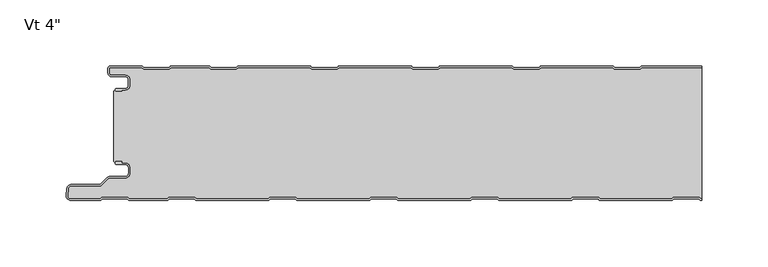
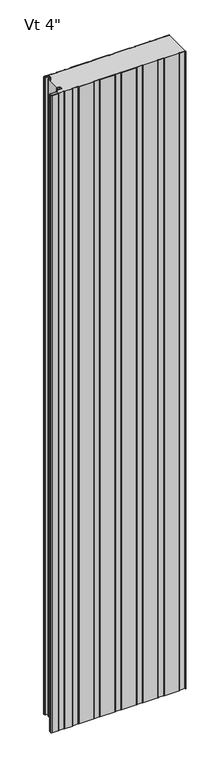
"""IFC4 building model written with IfcOpenShell, lengths in millimetres: plate geometry."""

from ifc_helpers import new_model, si_unit, point, frame, frame_2d, origin, origin_with_axes, place, context, project, spatial, polyline, circle_curve, trimmed, segment, composite_curve, outline, extrude, source, transform, mapped, element, save
from ifc_brep_helpers import plane_surface, cylinder_surface, revolved_surface, advanced_brep


def plate_c56739d3(model_context):
    return source(origin(), model_context, "Body", "SolidModel", [
        advanced_brep(
        [(-219.9686911, -17.0015243, 2400.0), (-220.9686883, -18.0015275, 2400.0), (-219.9686911, -19.0015188, 2400.0), (-215.9684874, -19.0015188, 2400.0), (-215.9684874, -18.0015243, 2400.0), (-213.2762776, -18.0015243, 2400.0), (-209.9762819, -14.7015286, 2400.0), (-209.9762819, -10.3015374, 2400.0), (-213.2762774, -7.0015419, 2400.0), (-223.6962563, -7.0015419, 2400.0), (-225.4662505, -5.2315477, 2400.0), (-225.4662505, -1.0, 2400.0), (-200.9659739, -1.0, 2400.0), (-199.5803313, -2.2002391, 2400.0), (-180.205165, -2.2002391, 2400.0), (-178.819532, -1.0000084, 2400.0), (-150.1661166, -1.0000084, 2400.0), (-148.7804837, -2.2002391, 2400.0), (-129.4053174, -2.2002391, 2400.0), (-128.0196844, -1.0000084, 2400.0), (-73.966269, -1.0000084, 2400.0), (-72.5806361, -2.2002391, 2400.0), (-53.2054698, -2.2002391, 2400.0), (-51.8198368, -1.0000084, 2400.0), (2.2335786, -1.0000084, 2400.0), (3.6192115, -2.2002391, 2400.0), (22.9943778, -2.2002391, 2400.0), (24.3800108, -1.0000084, 2400.0), (78.4334262, -1.0000084, 2400.0), (79.8190591, -2.2002391, 2400.0), (99.1942254, -2.2002391, 2400.0), (100.5798584, -1.0000084, 2400.0), (154.6332738, -1.0000084, 2400.0), (156.0189067, -2.2002391, 2400.0), (175.394073, -2.2002391, 2400.0), (176.779706, -1.0000084, 2400.0), (221.9999998, -1.0000084, 2400.0), (221.9999998, -8.4e-06, 2400.0), (176.9288571, -8.4e-06, 2400.0), (176.0122402, -0.3417969, 2400.0), (175.0211926, -1.2002391, 2400.0), (156.3917872, -1.2002391, 2400.0), (155.4007395, -0.3417969, 2400.0), (154.4841226, -8.4e-06, 2400.0), (100.7290095, -8.4e-06, 2400.0), (99.8123926, -0.3417969, 2400.0), (98.821345, -1.2002391, 2400.0), (80.1919396, -1.2002391, 2400.0), (79.2008919, -0.3417969, 2400.0), (78.284275, -8.4e-06, 2400.0), (24.5291619, -8.4e-06, 2400.0), (23.612545, -0.3417969, 2400.0), (22.6214974, -1.2002391, 2400.0), (3.992092, -1.2002391, 2400.0), (3.0010443, -0.3417969, 2400.0), (2.0844274, -8.4e-06, 2400.0), (-51.6706857, -8.4e-06, 2400.0), (-52.5873026, -0.3417969, 2400.0), (-53.5783502, -1.2002391, 2400.0), (-72.2077556, -1.2002391, 2400.0), (-73.1988033, -0.3417969, 2400.0), (-74.1154202, -8.4e-06, 2400.0), (-127.8705333, -8.4e-06, 2400.0), (-128.7871502, -0.3417969, 2400.0), (-129.7781978, -1.2002391, 2400.0), (-148.4076032, -1.2002391, 2400.0), (-149.3986509, -0.3417969, 2400.0), (-150.3152678, -8.4e-06, 2400.0), (-178.6703809, -8.4e-06, 2400.0), (-179.5869978, -0.3417969, 2400.0), (-180.5780454, -1.2002391, 2400.0), (-199.2074508, -1.2002391, 2400.0), (-200.1984985, -0.3417969, 2400.0), (-201.1152068, -8.4e-06, 2400.0), (-225.0662544, 0.0, 2400.0), (-226.4662505, -1.3999962, 2400.0), (-226.4662505, -5.2315477, 2400.0), (-223.6962563, -8.0015419, 2400.0), (-213.2762774, -8.0015419, 2400.0), (-210.9762819, -10.3015374, 2400.0), (-210.9762819, -14.7015286, 2400.0), (-213.2762776, -17.0015243, 2400.0), (-219.9686911, -17.0015243, 0.0), (-213.2762776, -17.0015243, 0.0), (-210.9762819, -14.7015286, 0.0), (-210.9762819, -10.3015374, 0.0), (-213.2762774, -8.0015419, 0.0), (-223.6962563, -8.0015419, 0.0), (-226.4662505, -5.2315477, 0.0), (-226.4662505, -1.3999962, 0.0), (-225.0662544, 0.0, 0.0), (-201.1151154, 0.0, 0.0), (-200.1984985, -0.3417969, 0.0), (-199.2074508, -1.2002391, 0.0), (-180.5780454, -1.2002391, 0.0), (-179.5869978, -0.3417969, 0.0), (-178.6703809, -8.4e-06, 0.0), (-150.3152678, -8.4e-06, 0.0), (-149.3986509, -0.3417969, 0.0), (-148.4076032, -1.2002391, 0.0), (-129.7781978, -1.2002391, 0.0), (-128.7871502, -0.3417969, 0.0), (-127.8705333, -8.4e-06, 0.0), (-74.1154202, -8.4e-06, 0.0), (-73.1988033, -0.3417969, 0.0), (-72.2077556, -1.2002391, 0.0), (-53.5783502, -1.2002391, 0.0), (-52.5873026, -0.3417969, 0.0), (-51.6706857, -8.4e-06, 0.0), (2.0844274, -8.4e-06, 0.0), (3.0010443, -0.3417969, 0.0), (3.992092, -1.2002391, 0.0), (22.6214974, -1.2002391, 0.0), (23.612545, -0.3417969, 0.0), (24.5291619, -8.4e-06, 0.0), (78.284275, -8.4e-06, 0.0), (79.2008919, -0.3417969, 0.0), (80.1919396, -1.2002391, 0.0), (98.821345, -1.2002391, 0.0), (99.8123926, -0.3417969, 0.0), (100.7290095, -8.4e-06, 0.0), (154.4841226, -8.4e-06, 0.0), (155.4007395, -0.3417969, 0.0), (156.3917872, -1.2002391, 0.0), (175.0211926, -1.2002391, 0.0), (176.0122402, -0.3417969, 0.0), (176.9288571, -8.4e-06, 0.0), (221.9999998, -8.4e-06, 0.0), (221.9999998, -1.0000084, 0.0), (176.779706, -1.0000084, 0.0), (175.394073, -2.2002391, 0.0), (156.0189067, -2.2002391, 0.0), (154.6332738, -1.0000084, 0.0), (100.5798584, -1.0000084, 0.0), (99.1942254, -2.2002391, 0.0), (79.8190591, -2.2002391, 0.0), (78.4334262, -1.0000084, 0.0), (24.3800108, -1.0000084, 0.0), (22.9943778, -2.2002391, 0.0), (3.6192115, -2.2002391, 0.0), (2.2335786, -1.0000084, 0.0), (-51.8198368, -1.0000084, 0.0), (-53.2054698, -2.2002391, 0.0), (-72.5806361, -2.2002391, 0.0), (-73.966269, -1.0000084, 0.0), (-128.0196844, -1.0000084, 0.0), (-129.4053174, -2.2002391, 0.0), (-148.7804837, -2.2002391, 0.0), (-150.1661166, -1.0000084, 0.0), (-178.819532, -1.0000084, 0.0), (-180.205165, -2.2002391, 0.0), (-199.5803313, -2.2002391, 0.0), (-200.9659739, -1.0, 0.0), (-225.4662505, -1.0, 0.0), (-225.4662505, -5.2315477, 0.0), (-223.6962563, -7.0015419, 0.0), (-213.2762774, -7.0015419, 0.0), (-209.9762819, -10.3015374, 0.0), (-209.9762819, -14.7015286, 0.0), (-213.2762776, -18.0015243, 0.0), (-215.9684874, -18.0015243, 0.0), (-215.9684874, -19.0015188, 0.0), (-219.9686911, -19.0015188, 0.0), (-220.9686883, -18.0015275, 0.0)],
        [
            (0, 1, circle_curve(frame((-219.9686911, -18.0015215, 2400.0), z_axis=(0.0, 0.0, 1.0), x_axis=(1.0, 0.0, 0.0)), 0.9999973)),
            (1, 2, circle_curve(frame((-219.9686911, -18.0015216, 2400.0), z_axis=(0.0, 0.0, 1.0), x_axis=(1.0, 0.0, 0.0)), 0.9999972)),
            (2, 3),
            (3, 4),
            (4, 5),
            (5, 6, circle_curve(frame((-213.2762776, -14.7015286, 2400.0), z_axis=(0.0, 0.0, 1.0), x_axis=(1.0, 0.0, 0.0)), 3.2999957)),
            (6, 7),
            (7, 8, circle_curve(frame((-213.2762774, -10.3015374, 2400.0), z_axis=(0.0, 0.0, 1.0), x_axis=(1.0, 0.0, 0.0)), 3.2999955)),
            (8, 9),
            (9, 10, circle_curve(frame((-223.6962563, -5.2315477, 2400.0), z_axis=(0.0, 0.0, -1.0), x_axis=(1.0, 0.0, 0.0)), 1.7699942)),
            (10, 11),
            (11, 12),
            (12, 13),
            (13, 14),
            (14, 15),
            (15, 16),
            (16, 17),
            (17, 18),
            (18, 19),
            (19, 20),
            (20, 21),
            (21, 22),
            (22, 23),
            (23, 24),
            (24, 25),
            (25, 26),
            (26, 27),
            (27, 28),
            (28, 29),
            (29, 30),
            (30, 31),
            (31, 32),
            (32, 33),
            (33, 34),
            (34, 35),
            (35, 36),
            (36, 37),
            (37, 38),
            (38, 39, circle_curve(frame((176.9288571, -1.4000056, 2400.0), z_axis=(0.0, 0.0, 1.0), x_axis=(1.0, 0.0, 0.0)), 1.3999972)),
            (39, 40),
            (40, 41),
            (41, 42),
            (42, 43, circle_curve(frame((154.4841226, -1.4000056, 2400.0), z_axis=(0.0, 0.0, 1.0), x_axis=(1.0, 0.0, 0.0)), 1.3999972)),
            (43, 44),
            (44, 45, circle_curve(frame((100.7290095, -1.4000056, 2400.0), z_axis=(0.0, 0.0, 1.0), x_axis=(1.0, 0.0, 0.0)), 1.3999972)),
            (45, 46),
            (46, 47),
            (47, 48),
            (48, 49, circle_curve(frame((78.284275, -1.4000056, 2400.0), z_axis=(0.0, 0.0, 1.0), x_axis=(1.0, 0.0, 0.0)), 1.3999972)),
            (49, 50),
            (50, 51, circle_curve(frame((24.5291619, -1.4000056, 2400.0), z_axis=(0.0, 0.0, 1.0), x_axis=(1.0, 0.0, 0.0)), 1.3999972)),
            (51, 52),
            (52, 53),
            (53, 54),
            (54, 55, circle_curve(frame((2.0844274, -1.4000056, 2400.0), z_axis=(0.0, 0.0, 1.0), x_axis=(1.0, 0.0, 0.0)), 1.3999972)),
            (55, 56),
            (56, 57, circle_curve(frame((-51.6706857, -1.4000056, 2400.0), z_axis=(0.0, 0.0, 1.0), x_axis=(1.0, 0.0, 0.0)), 1.3999972)),
            (57, 58),
            (58, 59),
            (59, 60),
            (60, 61, circle_curve(frame((-74.1154202, -1.4000056, 2400.0), z_axis=(0.0, 0.0, 1.0), x_axis=(1.0, 0.0, 0.0)), 1.3999972)),
            (61, 62),
            (62, 63, circle_curve(frame((-127.8705333, -1.4000056, 2400.0), z_axis=(0.0, 0.0, 1.0), x_axis=(1.0, 0.0, 0.0)), 1.3999972)),
            (63, 64),
            (64, 65),
            (65, 66),
            (66, 67, circle_curve(frame((-150.3152678, -1.4000056, 2400.0), z_axis=(0.0, 0.0, 1.0), x_axis=(1.0, 0.0, 0.0)), 1.3999972)),
            (67, 68),
            (68, 69, circle_curve(frame((-178.6703809, -1.4000056, 2400.0), z_axis=(0.0, 0.0, 1.0), x_axis=(1.0, 0.0, 0.0)), 1.3999972)),
            (69, 70),
            (70, 71),
            (71, 72),
            (72, 73, circle_curve(frame((-201.1151154, -1.4000056, 2400.0), z_axis=(0.0, 0.0, 1.0), x_axis=(1.0, 0.0, 0.0)), 1.3999972)),
            (73, 74),
            (74, 75, circle_curve(frame((-225.0662544, -1.3999962, 2400.0), z_axis=(0.0, 0.0, 1.0), x_axis=(1.0, 0.0, 0.0)), 1.3999962)),
            (75, 76),
            (76, 77, circle_curve(frame((-223.6962563, -5.2315477, 2400.0), z_axis=(0.0, 0.0, 1.0), x_axis=(1.0, 0.0, 0.0)), 2.7699942)),
            (77, 78),
            (78, 79, circle_curve(frame((-213.2762774, -10.3015374, 2400.0), z_axis=(0.0, 0.0, -1.0), x_axis=(1.0, 0.0, 0.0)), 2.2999955)),
            (79, 80),
            (80, 81, circle_curve(frame((-213.2762776, -14.7015286, 2400.0), z_axis=(0.0, 0.0, -1.0), x_axis=(1.0, 0.0, 0.0)), 2.2999957)),
            (81, 0),
            (82, 83),
            (83, 84, circle_curve(frame((-213.2762776, -14.7015286, 0.0), z_axis=(0.0, 0.0, 1.0), x_axis=(1.0, 0.0, 0.0)), 2.2999957)),
            (84, 85),
            (85, 86, circle_curve(frame((-213.2762774, -10.3015374, 0.0), z_axis=(0.0, 0.0, 1.0), x_axis=(1.0, 0.0, 0.0)), 2.2999955)),
            (86, 87),
            (87, 88, circle_curve(frame((-223.6962563, -5.2315477, 0.0), z_axis=(0.0, 0.0, -1.0), x_axis=(1.0, 0.0, 0.0)), 2.7699942)),
            (88, 89),
            (89, 90, circle_curve(frame((-225.0662544, -1.3999962, 0.0), z_axis=(0.0, 0.0, -1.0), x_axis=(1.0, 0.0, 0.0)), 1.3999962)),
            (90, 91),
            (91, 92, circle_curve(frame((-201.1151154, -1.4000056, 0.0), z_axis=(0.0, 0.0, -1.0), x_axis=(1.0, 0.0, 0.0)), 1.3999972)),
            (92, 93),
            (93, 94),
            (94, 95),
            (95, 96, circle_curve(frame((-178.6703809, -1.4000056, 0.0), z_axis=(0.0, 0.0, -1.0), x_axis=(1.0, 0.0, 0.0)), 1.3999972)),
            (96, 97),
            (97, 98, circle_curve(frame((-150.3152678, -1.4000056, 0.0), z_axis=(0.0, 0.0, -1.0), x_axis=(1.0, 0.0, 0.0)), 1.3999972)),
            (98, 99),
            (99, 100),
            (100, 101),
            (101, 102, circle_curve(frame((-127.8705333, -1.4000056, 0.0), z_axis=(0.0, 0.0, -1.0), x_axis=(1.0, 0.0, 0.0)), 1.3999972)),
            (102, 103),
            (103, 104, circle_curve(frame((-74.1154202, -1.4000056, 0.0), z_axis=(0.0, 0.0, -1.0), x_axis=(1.0, 0.0, 0.0)), 1.3999972)),
            (104, 105),
            (105, 106),
            (106, 107),
            (107, 108, circle_curve(frame((-51.6706857, -1.4000056, 0.0), z_axis=(0.0, 0.0, -1.0), x_axis=(1.0, 0.0, 0.0)), 1.3999972)),
            (108, 109),
            (109, 110, circle_curve(frame((2.0844274, -1.4000056, 0.0), z_axis=(0.0, 0.0, -1.0), x_axis=(1.0, 0.0, 0.0)), 1.3999972)),
            (110, 111),
            (111, 112),
            (112, 113),
            (113, 114, circle_curve(frame((24.5291619, -1.4000056, 0.0), z_axis=(0.0, 0.0, -1.0), x_axis=(1.0, 0.0, 0.0)), 1.3999972)),
            (114, 115),
            (115, 116, circle_curve(frame((78.284275, -1.4000056, 0.0), z_axis=(0.0, 0.0, -1.0), x_axis=(1.0, 0.0, 0.0)), 1.3999972)),
            (116, 117),
            (117, 118),
            (118, 119),
            (119, 120, circle_curve(frame((100.7290095, -1.4000056, 0.0), z_axis=(0.0, 0.0, -1.0), x_axis=(1.0, 0.0, 0.0)), 1.3999972)),
            (120, 121),
            (121, 122, circle_curve(frame((154.4841226, -1.4000056, 0.0), z_axis=(0.0, 0.0, -1.0), x_axis=(1.0, 0.0, 0.0)), 1.3999972)),
            (122, 123),
            (123, 124),
            (124, 125),
            (125, 126, circle_curve(frame((176.9288571, -1.4000056, 0.0), z_axis=(0.0, 0.0, -1.0), x_axis=(1.0, 0.0, 0.0)), 1.3999972)),
            (126, 127),
            (127, 128),
            (128, 129),
            (129, 130),
            (130, 131),
            (131, 132),
            (132, 133),
            (133, 134),
            (134, 135),
            (135, 136),
            (136, 137),
            (137, 138),
            (138, 139),
            (139, 140),
            (140, 141),
            (141, 142),
            (142, 143),
            (143, 144),
            (144, 145),
            (145, 146),
            (146, 147),
            (147, 148),
            (148, 149),
            (149, 150),
            (150, 151),
            (151, 152),
            (152, 153),
            (153, 154),
            (154, 155, circle_curve(frame((-223.6962563, -5.2315477, 0.0), z_axis=(0.0, 0.0, 1.0), x_axis=(1.0, 0.0, 0.0)), 1.7699942)),
            (155, 156),
            (156, 157, circle_curve(frame((-213.2762774, -10.3015374, 0.0), z_axis=(0.0, 0.0, -1.0), x_axis=(1.0, 0.0, 0.0)), 3.2999955)),
            (157, 158),
            (158, 159, circle_curve(frame((-213.2762776, -14.7015286, 0.0), z_axis=(0.0, 0.0, -1.0), x_axis=(1.0, 0.0, 0.0)), 3.2999957)),
            (159, 160),
            (160, 161),
            (161, 162),
            (162, 163, circle_curve(frame((-219.9686911, -18.0015216, 0.0), z_axis=(0.0, 0.0, -1.0), x_axis=(1.0, 0.0, 0.0)), 0.9999972)),
            (163, 82, circle_curve(frame((-219.9686911, -18.0015215, 0.0), z_axis=(0.0, 0.0, -1.0), x_axis=(1.0, 0.0, 0.0)), 0.9999973)),
            (36, 128),
            (127, 37),
            (81, 83),
            (82, 0),
            (80, 84),
            (79, 85),
            (78, 86),
            (77, 87),
            (76, 88),
            (75, 89),
            (74, 90),
            (73, 91),
            (72, 92),
            (71, 93),
            (70, 94),
            (69, 95),
            (68, 96),
            (67, 97),
            (66, 98),
            (65, 99),
            (64, 100),
            (63, 101),
            (62, 102),
            (61, 103),
            (60, 104),
            (59, 105),
            (58, 106),
            (57, 107),
            (56, 108),
            (55, 109),
            (54, 110),
            (53, 111),
            (52, 112),
            (51, 113),
            (50, 114),
            (49, 115),
            (48, 116),
            (47, 117),
            (46, 118),
            (45, 119),
            (44, 120),
            (43, 121),
            (42, 122),
            (41, 123),
            (40, 124),
            (39, 125),
            (38, 126),
            (35, 129),
            (34, 130),
            (33, 131),
            (32, 132),
            (31, 133),
            (30, 134),
            (29, 135),
            (28, 136),
            (27, 137),
            (26, 138),
            (25, 139),
            (24, 140),
            (23, 141),
            (22, 142),
            (21, 143),
            (20, 144),
            (19, 145),
            (18, 146),
            (17, 147),
            (16, 148),
            (15, 149),
            (14, 150),
            (13, 151),
            (12, 152),
            (11, 153),
            (10, 154),
            (9, 155),
            (8, 156),
            (7, 157),
            (6, 158),
            (5, 159),
            (4, 160),
            (3, 161),
            (2, 162),
            (1, 163),
        ],
        [
            plane_surface(frame((286.0000002, -8.4e-06, 2400.0), z_axis=(0.0, 0.0, 1.0), x_axis=(0.0, 1.0, 0.0))),
            plane_surface(frame((286.0000002, -8.4e-06, 0.0), z_axis=(0.0, 0.0, -1.0), x_axis=(0.0, 1.0, 0.0))),
            plane_surface(frame((221.9999998, -111.6000084, 2400.0), z_axis=(1.0, 0.0, 0.0), x_axis=(0.0, 0.0, -1.0))),
            plane_surface(frame((-219.9686911, -17.0015243, 2400.0), z_axis=(0.0, 1.0, 0.0), x_axis=(0.0, 0.0, -1.0))),
            revolved_surface(polyline([(-210.97628189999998, -14.7015286, 0.0), (-210.97628189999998, -14.7015286, 2400.0)]), (-213.2762776, -14.7015286, 2400.0), (0.0, 0.0, -1.0)),
            plane_surface(frame((-210.9762819, -14.7015286, 2400.0), z_axis=(-1.0, 0.0, 0.0), x_axis=(0.0, 0.0, -1.0))),
            revolved_surface(polyline([(-210.9762819, -10.3015374, 0.0), (-210.9762819, -10.3015374, 2400.0)]), (-213.2762774, -10.3015374, 2400.0), (0.0, 0.0, -1.0)),
            plane_surface(frame((-213.2762774, -8.0015419, 2400.0), z_axis=(0.0, -1.0, 0.0), x_axis=(0.0, 0.0, -1.0))),
            cylinder_surface(frame((-223.6962563, -5.2315477, 2400.0), z_axis=(0.0, 0.0, 1.0), x_axis=(1.0, 0.0, 0.0)), 2.7699942),
            plane_surface(frame((-226.4662505, -5.2315477, 2400.0), z_axis=(-1.0, 0.0, 0.0), x_axis=(0.0, 0.0, -1.0))),
            cylinder_surface(frame((-225.0662544, -1.3999962, 2400.0), z_axis=(0.0, 0.0, 1.0), x_axis=(1.0, 0.0, 0.0)), 1.3999962),
            plane_surface(frame((-225.0662544, 0.0, 2400.0), z_axis=(0.0, 1.0, 0.0), x_axis=(0.0, 0.0, -1.0))),
            cylinder_surface(frame((-201.1151154, -1.4000056, 2400.0), z_axis=(0.0, 0.0, 1.0), x_axis=(1.0, 0.0, 0.0)), 1.3999972),
            plane_surface(frame((-200.1984985, -0.3417969, 2400.0), z_axis=(0.6547276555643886, 0.755864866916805, 0.0), x_axis=(0.0, 0.0, -1.0))),
            plane_surface(frame((-189.8927481, -1.2002391, 2400.0), z_axis=(0.0, 1.0, 0.0), x_axis=(0.0, 0.0, -1.0))),
            plane_surface(frame((-180.5780454, -1.2002391, 2400.0), z_axis=(-0.6547276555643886, 0.755864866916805, 0.0), x_axis=(0.0, 0.0, -1.0))),
            cylinder_surface(frame((-178.6703809, -1.4000056, 2400.0), z_axis=(0.0, 0.0, 1.0), x_axis=(1.0, 0.0, 0.0)), 1.3999972),
            plane_surface(frame((-178.6703809, -8.4e-06, 2400.0), z_axis=(0.0, 1.0, 0.0), x_axis=(0.0, 0.0, -1.0))),
            cylinder_surface(frame((-150.3152678, -1.4000056, 2400.0), z_axis=(0.0, 0.0, 1.0), x_axis=(1.0, 0.0, 0.0)), 1.3999972),
            plane_surface(frame((-149.3986509, -0.3417969, 2400.0), z_axis=(0.6547276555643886, 0.755864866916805, 0.0), x_axis=(0.0, 0.0, -1.0))),
            plane_surface(frame((-139.0929005, -1.2002391, 2400.0), z_axis=(0.0, 1.0, 0.0), x_axis=(0.0, 0.0, -1.0))),
            plane_surface(frame((-129.7781978, -1.2002391, 2400.0), z_axis=(-0.6547276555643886, 0.755864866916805, 0.0), x_axis=(0.0, 0.0, -1.0))),
            cylinder_surface(frame((-127.8705333, -1.4000056, 2400.0), z_axis=(0.0, 0.0, 1.0), x_axis=(1.0, 0.0, 0.0)), 1.3999972),
            plane_surface(frame((-127.8705333, -8.4e-06, 2400.0), z_axis=(0.0, 1.0, 0.0), x_axis=(0.0, 0.0, -1.0))),
            cylinder_surface(frame((-74.1154202, -1.4000056, 2400.0), z_axis=(0.0, 0.0, 1.0), x_axis=(1.0, 0.0, 0.0)), 1.3999972),
            plane_surface(frame((-73.1988033, -0.3417969, 2400.0), z_axis=(0.6547276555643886, 0.755864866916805, 0.0), x_axis=(0.0, 0.0, -1.0))),
            plane_surface(frame((-62.8930529, -1.2002391, 2400.0), z_axis=(0.0, 1.0, 0.0), x_axis=(0.0, 0.0, -1.0))),
            plane_surface(frame((-53.5783502, -1.2002391, 2400.0), z_axis=(-0.6547276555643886, 0.755864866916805, 0.0), x_axis=(0.0, 0.0, -1.0))),
            cylinder_surface(frame((-51.6706857, -1.4000056, 2400.0), z_axis=(0.0, 0.0, 1.0), x_axis=(1.0, 0.0, 0.0)), 1.3999972),
            plane_surface(frame((-51.6706857, -8.4e-06, 2400.0), z_axis=(0.0, 1.0, 0.0), x_axis=(0.0, 0.0, -1.0))),
            cylinder_surface(frame((2.0844274, -1.4000056, 2400.0), z_axis=(0.0, 0.0, 1.0), x_axis=(1.0, 0.0, 0.0)), 1.3999972),
            plane_surface(frame((3.0010443, -0.3417969, 2400.0), z_axis=(0.6547276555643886, 0.755864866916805, 0.0), x_axis=(0.0, 0.0, -1.0))),
            plane_surface(frame((13.3067947, -1.2002391, 2400.0), z_axis=(0.0, 1.0, 0.0), x_axis=(0.0, 0.0, -1.0))),
            plane_surface(frame((22.6214974, -1.2002391, 2400.0), z_axis=(-0.6547276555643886, 0.755864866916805, 0.0), x_axis=(0.0, 0.0, -1.0))),
            cylinder_surface(frame((24.5291619, -1.4000056, 2400.0), z_axis=(0.0, 0.0, 1.0), x_axis=(1.0, 0.0, 0.0)), 1.3999972),
            plane_surface(frame((24.5291619, -8.4e-06, 2400.0), z_axis=(0.0, 1.0, 0.0), x_axis=(0.0, 0.0, -1.0))),
            cylinder_surface(frame((78.284275, -1.4000056, 2400.0), z_axis=(0.0, 0.0, 1.0), x_axis=(1.0, 0.0, 0.0)), 1.3999972),
            plane_surface(frame((79.2008919, -0.3417969, 2400.0), z_axis=(0.6547276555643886, 0.755864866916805, 0.0), x_axis=(0.0, 0.0, -1.0))),
            plane_surface(frame((89.5066423, -1.2002391, 2400.0), z_axis=(0.0, 1.0, 0.0), x_axis=(0.0, 0.0, -1.0))),
            plane_surface(frame((98.821345, -1.2002391, 2400.0), z_axis=(-0.6547276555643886, 0.755864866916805, 0.0), x_axis=(0.0, 0.0, -1.0))),
            cylinder_surface(frame((100.7290095, -1.4000056, 2400.0), z_axis=(0.0, 0.0, 1.0), x_axis=(1.0, 0.0, 0.0)), 1.3999972),
            plane_surface(frame((100.7290095, -8.4e-06, 2400.0), z_axis=(0.0, 1.0, 0.0), x_axis=(0.0, 0.0, -1.0))),
            cylinder_surface(frame((154.4841226, -1.4000056, 2400.0), z_axis=(0.0, 0.0, 1.0), x_axis=(1.0, 0.0, 0.0)), 1.3999972),
            plane_surface(frame((155.4007395, -0.3417969, 2400.0), z_axis=(0.6547276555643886, 0.755864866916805, 0.0), x_axis=(0.0, 0.0, -1.0))),
            plane_surface(frame((165.7064899, -1.2002391, 2400.0), z_axis=(0.0, 1.0, 0.0), x_axis=(0.0, 0.0, -1.0))),
            plane_surface(frame((175.0211926, -1.2002391, 2400.0), z_axis=(-0.6547276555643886, 0.755864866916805, 0.0), x_axis=(0.0, 0.0, -1.0))),
            cylinder_surface(frame((176.9288571, -1.4000056, 2400.0), z_axis=(0.0, 0.0, 1.0), x_axis=(1.0, 0.0, 0.0)), 1.3999972),
            plane_surface(frame((176.9288571, -8.4e-06, 2400.0), z_axis=(0.0, 1.0, 0.0), x_axis=(0.0, 0.0, -1.0))),
            plane_surface(frame((230.8331214, -1.0000084, 2400.0), z_axis=(0.0, -1.0, 0.0), x_axis=(0.0, 0.0, -1.0))),
            plane_surface(frame((176.779706, -1.0000084, 2400.0), z_axis=(0.6547276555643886, -0.755864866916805, 0.0), x_axis=(0.0, 0.0, -1.0))),
            plane_surface(frame((175.394073, -2.2002391, 2400.0), z_axis=(0.0, -1.0, 0.0), x_axis=(0.0, 0.0, -1.0))),
            plane_surface(frame((156.0189067, -2.2002391, 2400.0), z_axis=(-0.6547276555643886, -0.755864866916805, 0.0), x_axis=(0.0, 0.0, -1.0))),
            plane_surface(frame((154.6332738, -1.0000084, 2400.0), z_axis=(0.0, -1.0, 0.0), x_axis=(0.0, 0.0, -1.0))),
            plane_surface(frame((100.5798584, -1.0000084, 2400.0), z_axis=(0.6547276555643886, -0.755864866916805, 0.0), x_axis=(0.0, 0.0, -1.0))),
            plane_surface(frame((99.1942254, -2.2002391, 2400.0), z_axis=(0.0, -1.0, 0.0), x_axis=(0.0, 0.0, -1.0))),
            plane_surface(frame((79.8190591, -2.2002391, 2400.0), z_axis=(-0.6547276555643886, -0.755864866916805, 0.0), x_axis=(0.0, 0.0, -1.0))),
            plane_surface(frame((78.4334262, -1.0000084, 2400.0), z_axis=(0.0, -1.0, 0.0), x_axis=(0.0, 0.0, -1.0))),
            plane_surface(frame((24.3800108, -1.0000084, 2400.0), z_axis=(0.6547276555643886, -0.755864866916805, 0.0), x_axis=(0.0, 0.0, -1.0))),
            plane_surface(frame((22.9943778, -2.2002391, 2400.0), z_axis=(0.0, -1.0, 0.0), x_axis=(0.0, 0.0, -1.0))),
            plane_surface(frame((3.6192115, -2.2002391, 2400.0), z_axis=(-0.6547276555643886, -0.755864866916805, 0.0), x_axis=(0.0, 0.0, -1.0))),
            plane_surface(frame((2.2335786, -1.0000084, 2400.0), z_axis=(0.0, -1.0, 0.0), x_axis=(0.0, 0.0, -1.0))),
            plane_surface(frame((-51.8198368, -1.0000084, 2400.0), z_axis=(0.6547276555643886, -0.755864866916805, 0.0), x_axis=(0.0, 0.0, -1.0))),
            plane_surface(frame((-53.2054698, -2.2002391, 2400.0), z_axis=(0.0, -1.0, 0.0), x_axis=(0.0, 0.0, -1.0))),
            plane_surface(frame((-72.5806361, -2.2002391, 2400.0), z_axis=(-0.6547276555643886, -0.755864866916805, 0.0), x_axis=(0.0, 0.0, -1.0))),
            plane_surface(frame((-73.966269, -1.0000084, 2400.0), z_axis=(0.0, -1.0, 0.0), x_axis=(0.0, 0.0, -1.0))),
            plane_surface(frame((-128.0196844, -1.0000084, 2400.0), z_axis=(0.6547276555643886, -0.755864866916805, 0.0), x_axis=(0.0, 0.0, -1.0))),
            plane_surface(frame((-129.4053174, -2.2002391, 2400.0), z_axis=(0.0, -1.0, 0.0), x_axis=(0.0, 0.0, -1.0))),
            plane_surface(frame((-148.7804837, -2.2002391, 2400.0), z_axis=(-0.6547276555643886, -0.755864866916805, 0.0), x_axis=(0.0, 0.0, -1.0))),
            plane_surface(frame((-150.1661166, -1.0000084, 2400.0), z_axis=(0.0, -1.0, 0.0), x_axis=(0.0, 0.0, -1.0))),
            plane_surface(frame((-178.819532, -1.0000084, 2400.0), z_axis=(0.6547276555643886, -0.755864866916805, 0.0), x_axis=(0.0, 0.0, -1.0))),
            plane_surface(frame((-180.205165, -2.2002391, 2400.0), z_axis=(0.0, -1.0, 0.0), x_axis=(0.0, 0.0, -1.0))),
            plane_surface(frame((-199.5803313, -2.2002391, 2400.0), z_axis=(-0.6547276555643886, -0.755864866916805, 0.0), x_axis=(0.0, 0.0, -1.0))),
            plane_surface(frame((-200.9659739, -1.0, 2400.0), z_axis=(0.0, -1.0, 0.0), x_axis=(0.0, 0.0, -1.0))),
            plane_surface(frame((-225.4662505, -1.0, 2400.0), z_axis=(1.0, 0.0, 0.0), x_axis=(0.0, 0.0, -1.0))),
            revolved_surface(polyline([(-221.92626209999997, -5.2315477, 0.0), (-221.92626209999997, -5.2315477, 2400.0)]), (-223.6962563, -5.2315477, 2400.0), (0.0, 0.0, -1.0)),
            plane_surface(frame((-223.6962563, -7.0015419, 2400.0), z_axis=(0.0, 1.0, 0.0), x_axis=(0.0, 0.0, -1.0))),
            cylinder_surface(frame((-213.2762774, -10.3015374, 2400.0), z_axis=(0.0, 0.0, 1.0), x_axis=(1.0, 0.0, 0.0)), 3.2999955),
            plane_surface(frame((-209.9762819, -10.3015374, 2400.0), z_axis=(1.0, 0.0, 0.0), x_axis=(0.0, 0.0, -1.0))),
            cylinder_surface(frame((-213.2762776, -14.7015286, 2400.0), z_axis=(0.0, 0.0, 1.0), x_axis=(1.0, 0.0, 0.0)), 3.2999957),
            plane_surface(frame((-213.2762776, -18.0015243, 2400.0), z_axis=(0.0, -1.0, 0.0), x_axis=(0.0, 0.0, -1.0))),
            plane_surface(frame((-215.9684874, -18.0015243, 2400.0), z_axis=(1.0, 0.0, 0.0), x_axis=(0.0, 0.0, -1.0))),
            plane_surface(frame((-215.9684874, -19.0015188, 2400.0), z_axis=(0.0, -1.0, 0.0), x_axis=(0.0, 0.0, -1.0))),
            cylinder_surface(frame((-219.9686911, -18.0015216, 2400.0), z_axis=(0.0, 0.0, 1.0), x_axis=(1.0, 0.0, 0.0)), 0.9999972),
            cylinder_surface(frame((-219.9686911, -18.0015215, 2400.0), z_axis=(0.0, 0.0, 1.0), x_axis=(1.0, 0.0, 0.0)), 0.9999973),
        ],
        [
            (0, [[1, 2, 3, 4, 5, 6, 7, 8, 9, 10, 11, 12, 13, 14, 15, 16, 17, 18, 19, 20, 21, 22, 23, 24, 25, 26, 27, 28, 29, 30, 31, 32, 33, 34, 35, 36, 37, 38, 39, 40, 41, 42, 43, 44, 45, 46, 47, 48, 49, 50, 51, 52, 53, 54, 55, 56, 57, 58, 59, 60, 61, 62, 63, 64, 65, 66, 67, 68, 69, 70, 71, 72, 73, 74, 75, 76, 77, 78, 79, 80, 81, 82]]),
            (1, [[83, 84, 85, 86, 87, 88, 89, 90, 91, 92, 93, 94, 95, 96, 97, 98, 99, 100, 101, 102, 103, 104, 105, 106, 107, 108, 109, 110, 111, 112, 113, 114, 115, 116, 117, 118, 119, 120, 121, 122, 123, 124, 125, 126, 127, 128, 129, 130, 131, 132, 133, 134, 135, 136, 137, 138, 139, 140, 141, 142, 143, 144, 145, 146, 147, 148, 149, 150, 151, 152, 153, 154, 155, 156, 157, 158, 159, 160, 161, 162, 163, 164]]),
            (2, [[165, -128, 166, -37]]),
            (3, [[167, -83, 168, -82]]),
            (4, [[169, -84, -167, -81]]),
            (5, [[170, -85, -169, -80]]),
            (6, [[171, -86, -170, -79]]),
            (7, [[172, -87, -171, -78]]),
            (8, [[173, -88, -172, -77]]),
            (9, [[174, -89, -173, -76]]),
            (10, [[175, -90, -174, -75]]),
            (11, [[176, -91, -175, -74]]),
            (12, [[177, -92, -176, -73]]),
            (13, [[178, -93, -177, -72]]),
            (14, [[179, -94, -178, -71]]),
            (15, [[180, -95, -179, -70]]),
            (16, [[181, -96, -180, -69]]),
            (17, [[182, -97, -181, -68]]),
            (18, [[183, -98, -182, -67]]),
            (19, [[184, -99, -183, -66]]),
            (20, [[185, -100, -184, -65]]),
            (21, [[186, -101, -185, -64]]),
            (22, [[187, -102, -186, -63]]),
            (23, [[188, -103, -187, -62]]),
            (24, [[189, -104, -188, -61]]),
            (25, [[190, -105, -189, -60]]),
            (26, [[191, -106, -190, -59]]),
            (27, [[192, -107, -191, -58]]),
            (28, [[193, -108, -192, -57]]),
            (29, [[194, -109, -193, -56]]),
            (30, [[195, -110, -194, -55]]),
            (31, [[196, -111, -195, -54]]),
            (32, [[197, -112, -196, -53]]),
            (33, [[198, -113, -197, -52]]),
            (34, [[199, -114, -198, -51]]),
            (35, [[200, -115, -199, -50]]),
            (36, [[201, -116, -200, -49]]),
            (37, [[202, -117, -201, -48]]),
            (38, [[203, -118, -202, -47]]),
            (39, [[204, -119, -203, -46]]),
            (40, [[205, -120, -204, -45]]),
            (41, [[206, -121, -205, -44]]),
            (42, [[207, -122, -206, -43]]),
            (43, [[208, -123, -207, -42]]),
            (44, [[209, -124, -208, -41]]),
            (45, [[210, -125, -209, -40]]),
            (46, [[211, -126, -210, -39]]),
            (47, [[-38, -166, -127, -211]]),
            (48, [[-129, -165, -36, 212]]),
            (49, [[213, -130, -212, -35]]),
            (50, [[214, -131, -213, -34]]),
            (51, [[215, -132, -214, -33]]),
            (52, [[216, -133, -215, -32]]),
            (53, [[217, -134, -216, -31]]),
            (54, [[218, -135, -217, -30]]),
            (55, [[219, -136, -218, -29]]),
            (56, [[220, -137, -219, -28]]),
            (57, [[221, -138, -220, -27]]),
            (58, [[222, -139, -221, -26]]),
            (59, [[223, -140, -222, -25]]),
            (60, [[224, -141, -223, -24]]),
            (61, [[225, -142, -224, -23]]),
            (62, [[226, -143, -225, -22]]),
            (63, [[227, -144, -226, -21]]),
            (64, [[228, -145, -227, -20]]),
            (65, [[229, -146, -228, -19]]),
            (66, [[230, -147, -229, -18]]),
            (67, [[231, -148, -230, -17]]),
            (68, [[232, -149, -231, -16]]),
            (69, [[233, -150, -232, -15]]),
            (70, [[234, -151, -233, -14]]),
            (71, [[235, -152, -234, -13]]),
            (72, [[236, -153, -235, -12]]),
            (73, [[237, -154, -236, -11]]),
            (74, [[238, -155, -237, -10]]),
            (75, [[239, -156, -238, -9]]),
            (76, [[240, -157, -239, -8]]),
            (77, [[241, -158, -240, -7]]),
            (78, [[242, -159, -241, -6]]),
            (79, [[243, -160, -242, -5]]),
            (80, [[244, -161, -243, -4]]),
            (81, [[245, -162, -244, -3]]),
            (82, [[246, -163, -245, -2]]),
            (83, [[-168, -164, -246, -1]]),
        ],
    ),
        extrude(outline(composite_curve([segment(polyline([(-232.6415932, -101.5997462), (-254.4521175, -101.5997462)]), True, "CONTINUOUS"), segment(trimmed(circle_curve(frame_2d((-254.4521175, -98.0295069)), 3.5702393), [point((-254.4521175, -101.5997462))], [point((-258.0087619, -97.7182365))], False, "CARTESIAN"), True, "CONTINUOUS"), segment(polyline([(-258.0087619, -97.7182365), (-257.5690674, -92.6941899)]), True, "CONTINUOUS"), segment(trimmed(circle_curve(frame_2d((-253.9198391, -93.304991)), 3.6999926), [point((-257.5690674, -92.6941899))], [point((-253.9198391, -89.6049984))], False, "CARTESIAN"), True, "CONTINUOUS"), segment(polyline([(-253.9198391, -89.6049984), (-232.7773995, -89.6049984)]), True, "CONTINUOUS"), segment(trimmed(circle_curve(frame_2d((-232.7773995, -88.305001)), 1.2999974), [point((-232.7773995, -89.6049984))], [point((-231.8581626, -89.224238))], True, "CARTESIAN"), True, "CONTINUOUS"), segment(polyline([(-231.8581626, -89.224238), (-227.0297451, -84.3958205)]), True, "CONTINUOUS"), segment(trimmed(circle_curve(frame_2d((-225.1205606, -86.305005)), 2.6999946), [point((-227.0297451, -84.3958205))], [point((-225.1205606, -83.6050104))], False, "CARTESIAN"), True, "CONTINUOUS"), segment(polyline([(-225.1205606, -83.6050104), (-213.3096715, -83.6050104)]), True, "CONTINUOUS"), segment(trimmed(circle_curve(frame_2d((-213.3096715, -81.2550151)), 2.3499953), [point((-213.3096715, -83.6050104))], [point((-210.9596762, -81.2550151))], True, "CARTESIAN"), True, "CONTINUOUS"), segment(polyline([(-210.9596762, -81.2550151), (-210.9596762, -76.8550239)]), True, "CONTINUOUS"), segment(trimmed(circle_curve(frame_2d((-213.3096715, -76.8550239)), 2.3499953), [point((-210.9596762, -76.8550239))], [point((-213.3096715, -74.5050286))], True, "CARTESIAN"), True, "CONTINUOUS"), segment(polyline([(-213.3096715, -74.5050286), (-219.8289777, -74.5050286)]), True, "CONTINUOUS"), segment(trimmed(circle_curve(frame_2d((-219.7686906, -73.3065463)), 1.1999976), [point((-219.8289777, -74.5050286))], [point((-220.9683, -73.2760244))], False, "CARTESIAN"), True, "CONTINUOUS"), segment(trimmed(circle_curve(frame_2d((-219.7686906, -73.3065463)), 1.1999976), [point((-220.9683, -73.2760244))], [point((-219.767176, -72.1065497))], False, "CARTESIAN"), True, "CONTINUOUS"), segment(polyline([(-219.767176, -72.1065497), (-216.0087826, -72.1065497), (-216.0087826, -73.5050286), (-213.3096715, -73.5050286)]), True, "CONTINUOUS"), segment(trimmed(circle_curve(frame_2d((-213.3096715, -76.8550239)), 3.3499953), [point((-213.3096715, -73.5050286))], [point((-209.9596762, -76.8550239))], False, "CARTESIAN"), True, "CONTINUOUS"), segment(polyline([(-209.9596762, -76.8550239), (-209.9596762, -81.2550151)]), True, "CONTINUOUS"), segment(trimmed(circle_curve(frame_2d((-213.3096715, -81.2550151)), 3.3499953), [point((-209.9596762, -81.2550151))], [point((-213.3096715, -84.6050104))], False, "CARTESIAN"), True, "CONTINUOUS"), segment(polyline([(-213.3096715, -84.6050104), (-225.1205606, -84.6050104)]), True, "CONTINUOUS"), segment(trimmed(circle_curve(frame_2d((-225.1205606, -86.305005)), 1.6999946), [point((-225.1205606, -84.6050104))], [point((-226.3226383, -85.1029273))], True, "CARTESIAN"), True, "CONTINUOUS"), segment(polyline([(-226.3226383, -85.1029273), (-231.8247094, -90.6049984), (-253.9198391, -90.6049984)]), True, "CONTINUOUS"), segment(trimmed(circle_curve(frame_2d((-253.9198391, -93.304991)), 2.6999926), [point((-253.9198391, -90.6049984))], [point((-256.5765707, -92.8236004))], True, "CARTESIAN"), True, "CONTINUOUS"), segment(polyline([(-256.5765707, -92.8236004), (-257.0125697, -97.8054212)]), True, "CONTINUOUS"), segment(trimmed(circle_curve(frame_2d((-254.4521175, -98.0295069)), 2.5702393), [point((-257.0125697, -97.8054212))], [point((-254.4521175, -100.5997462))], True, "CARTESIAN"), True, "CONTINUOUS"), segment(polyline([(-254.4521175, -100.5997462), (-232.479096, -100.5997462), (-231.2791275, -99.3997777), (-211.559715, -99.3997777), (-210.3594843, -100.6000084), (-181.6793525, -100.6000084), (-180.4791218, -99.3997777), (-160.7597093, -99.3997777), (-159.5594786, -100.6000084), (-105.4793468, -100.6000084), (-104.2791161, -99.3997777), (-84.5597036, -99.3997777), (-83.3594729, -100.6000084), (-29.2793411, -100.6000084), (-28.0791104, -99.3997777), (-8.3596979, -99.3997777), (-7.1594672, -100.6000084), (46.9206646, -100.6000084), (48.1208953, -99.3997777), (67.8403078, -99.3997777), (69.0405385, -100.6000084), (123.1206703, -100.6000084), (124.320901, -99.3997777), (144.0403135, -99.3997777), (145.2405442, -100.6000084), (199.3206759, -100.6000084), (200.5209066, -99.3997777), (220.2403192, -99.3997777), (221.4405499, -100.6000084), (221.9999998, -100.6000084), (221.9999998, -101.6000084), (221.6098268, -101.6000084)]), True, "CONTINUOUS"), segment(trimmed(circle_curve(frame_2d((221.6021734, -100.2000321)), 1.3999972), [point((221.6098268, -101.6000084))], [point((220.5581226, -101.1327432))], False, "CARTESIAN"), True, "CONTINUOUS"), segment(polyline([(220.5581226, -101.1327432), (219.825157, -100.3997777), (200.9344878, -100.3997777), (200.2015432, -101.1327223)]), True, "CONTINUOUS"), segment(trimmed(circle_curve(frame_2d((199.1574924, -100.2000112)), 1.3999972), [point((200.2015432, -101.1327223))], [point((199.1574924, -101.6000084))], False, "CARTESIAN"), True, "CONTINUOUS"), segment(polyline([(199.1574924, -101.6000084), (145.4099792, -101.6000084)]), True, "CONTINUOUS"), segment(trimmed(circle_curve(frame_2d((145.4023258, -100.2000321)), 1.3999972), [point((145.4099792, -101.6000084))], [point((144.358275, -101.1327432))], False, "CARTESIAN"), True, "CONTINUOUS"), segment(polyline([(144.358275, -101.1327432), (143.6253094, -100.3997777), (124.7346402, -100.3997777), (124.0016956, -101.1327223)]), True, "CONTINUOUS"), segment(trimmed(circle_curve(frame_2d((122.9576448, -100.2000112)), 1.3999972), [point((124.0016956, -101.1327223))], [point((122.9576448, -101.6000084))], False, "CARTESIAN"), True, "CONTINUOUS"), segment(polyline([(122.9576448, -101.6000084), (69.2101316, -101.6000084)]), True, "CONTINUOUS"), segment(trimmed(circle_curve(frame_2d((69.2024782, -100.2000321)), 1.3999972), [point((69.2101316, -101.6000084))], [point((68.1584274, -101.1327432))], False, "CARTESIAN"), True, "CONTINUOUS"), segment(polyline([(68.1584274, -101.1327432), (67.4254618, -100.3997777), (48.5347926, -100.3997777), (47.801848, -101.1327223)]), True, "CONTINUOUS"), segment(trimmed(circle_curve(frame_2d((46.7577972, -100.2000112)), 1.3999972), [point((47.801848, -101.1327223))], [point((46.7577972, -101.6000084))], False, "CARTESIAN"), True, "CONTINUOUS"), segment(polyline([(46.7577972, -101.6000084), (-6.989716, -101.6000084)]), True, "CONTINUOUS"), segment(trimmed(circle_curve(frame_2d((-6.9973694, -100.2000321)), 1.3999972), [point((-6.989716, -101.6000084))], [point((-8.0414202, -101.1327432))], False, "CARTESIAN"), True, "CONTINUOUS"), segment(polyline([(-8.0414202, -101.1327432), (-8.7743858, -100.3997777), (-27.665055, -100.3997777), (-28.3979996, -101.1327223)]), True, "CONTINUOUS"), segment(trimmed(circle_curve(frame_2d((-29.4420504, -100.2000112)), 1.3999972), [point((-28.3979996, -101.1327223))], [point((-29.4420504, -101.6000084))], False, "CARTESIAN"), True, "CONTINUOUS"), segment(polyline([(-29.4420504, -101.6000084), (-83.1895636, -101.6000084)]), True, "CONTINUOUS"), segment(trimmed(circle_curve(frame_2d((-83.197217, -100.2000321)), 1.3999972), [point((-83.1895636, -101.6000084))], [point((-84.2412678, -101.1327432))], False, "CARTESIAN"), True, "CONTINUOUS"), segment(polyline([(-84.2412678, -101.1327432), (-84.9742334, -100.3997777), (-103.8649026, -100.3997777), (-104.5978472, -101.1327223)]), True, "CONTINUOUS"), segment(trimmed(circle_curve(frame_2d((-105.641898, -100.2000112)), 1.3999972), [point((-104.5978472, -101.1327223))], [point((-105.641898, -101.6000084))], False, "CARTESIAN"), True, "CONTINUOUS"), segment(polyline([(-105.641898, -101.6000084), (-159.3894112, -101.6000084)]), True, "CONTINUOUS"), segment(trimmed(circle_curve(frame_2d((-159.3970646, -100.2000321)), 1.3999972), [point((-159.3894112, -101.6000084))], [point((-160.4411154, -101.1327432))], False, "CARTESIAN"), True, "CONTINUOUS"), segment(polyline([(-160.4411154, -101.1327432), (-161.174081, -100.3997777), (-180.0647502, -100.3997777), (-180.7976948, -101.1327223)]), True, "CONTINUOUS"), segment(trimmed(circle_curve(frame_2d((-181.8417456, -100.2000112)), 1.3999972), [point((-180.7976948, -101.1327223))], [point((-181.8417456, -101.6000084))], False, "CARTESIAN"), True, "CONTINUOUS"), segment(polyline([(-181.8417456, -101.6000084), (-210.1892588, -101.6000084)]), True, "CONTINUOUS"), segment(trimmed(circle_curve(frame_2d((-210.1969122, -100.2000321)), 1.3999972), [point((-210.1892588, -101.6000084))], [point((-211.240963, -101.1327432))], False, "CARTESIAN"), True, "CONTINUOUS"), segment(polyline([(-211.240963, -101.1327432), (-211.9739286, -100.3997777), (-230.8649139, -100.3997777), (-231.5976402, -101.1325039)]), True, "CONTINUOUS"), segment(trimmed(circle_curve(frame_2d((-232.6415932, -100.1998801)), 1.3998661), [point((-231.5976402, -101.1325039))], [point((-232.6415932, -101.5997462))], False, "CARTESIAN"), True, "CONTINUOUS")], self_intersect=False)), origin_with_axes(), (0.0, 0.0, 1.0), 2400.0),
        extrude(outline(composite_curve([segment(polyline([(-220.9683, -73.2760244), (-221.9999998, -72.2443246), (-221.9999998, -19.0328392), (-220.9686882, -18.0015275)]), True, "CONTINUOUS"), segment(trimmed(circle_curve(frame_2d((-219.968691, -18.0015216)), 0.9999972), [point((-220.9686882, -18.0015275))], [point((-219.968691, -19.0015188))], True, "CARTESIAN"), True, "CONTINUOUS"), segment(polyline([(-219.968691, -19.0015188), (-215.9684874, -19.0015188), (-215.9684874, -18.0015243), (-213.2762776, -18.0015243)]), True, "CONTINUOUS"), segment(trimmed(circle_curve(frame_2d((-213.2762776, -14.7015286)), 3.2999957), [point((-213.2762776, -18.0015243))], [point((-209.9762819, -14.7015286))], True, "CARTESIAN"), True, "CONTINUOUS"), segment(polyline([(-209.9762819, -14.7015286), (-209.9762819, -10.3015374)]), True, "CONTINUOUS"), segment(trimmed(circle_curve(frame_2d((-213.2762777, -10.3015374)), 3.2999959), [point((-209.9762819, -10.3015374))], [point((-213.2762777, -7.0015415))], True, "CARTESIAN"), True, "CONTINUOUS"), segment(polyline([(-213.2762777, -7.0015415), (-223.6962563, -7.0015415)]), True, "CONTINUOUS"), segment(trimmed(circle_curve(frame_2d((-223.6962563, -5.2315473)), 1.7699942), [point((-223.6962563, -7.0015415))], [point((-225.4662505, -5.2315473))], False, "CARTESIAN"), True, "CONTINUOUS"), segment(polyline([(-225.4662505, -5.2315473), (-225.4662505, -1.0), (-200.9659738, -1.0), (-199.5803312, -2.2002391), (-180.2051649, -2.2002391), (-178.819532, -1.0000084), (-150.1661166, -1.0000084), (-148.7804836, -2.2002391), (-129.4053173, -2.2002391), (-128.0196844, -1.0000084), (-73.966269, -1.0000084), (-72.580636, -2.2002391), (-53.2054697, -2.2002391), (-51.8198368, -1.0000084), (2.2335786, -1.0000084), (3.6192116, -2.2002391), (22.9943779, -2.2002391), (24.3800108, -1.0000084), (78.4334262, -1.0000084), (79.8190592, -2.2002391), (99.1942255, -2.2002391), (100.5798584, -1.0000084), (154.6332738, -1.0000084), (156.0189068, -2.2002391), (175.3940731, -2.2002391), (176.779706, -1.0000084), (221.9999998, -1.0000084), (221.9999998, -100.6000084), (221.4405499, -100.6000084), (220.2403192, -99.3997777), (200.5209066, -99.3997777), (199.3206759, -100.6000084), (145.2405442, -100.6000084), (144.0403135, -99.3997777), (124.320901, -99.3997777), (123.1206703, -100.6000084), (69.0405385, -100.6000084), (67.8403078, -99.3997777), (48.1208953, -99.3997777), (46.9206646, -100.6000084), (-7.1594672, -100.6000084), (-8.3596979, -99.3997777), (-28.0791104, -99.3997777), (-29.2793411, -100.6000084), (-83.3594729, -100.6000084), (-84.5597036, -99.3997777), (-104.2791161, -99.3997777), (-105.4793468, -100.6000084), (-159.5594786, -100.6000084), (-160.7597093, -99.3997777), (-180.4791218, -99.3997777), (-181.6793525, -100.6000084), (-210.3594843, -100.6000084), (-211.559715, -99.3997777), (-231.2791275, -99.3997777), (-232.479096, -100.5997462), (-254.4521175, -100.5997462)]), True, "CONTINUOUS"), segment(trimmed(circle_curve(frame_2d((-254.4521175, -98.0295069)), 2.5702393), [point((-254.4521175, -100.5997462))], [point((-257.0125697, -97.8054212))], False, "CARTESIAN"), True, "CONTINUOUS"), segment(polyline([(-257.0125697, -97.8054212), (-256.5765707, -92.8236004)]), True, "CONTINUOUS"), segment(trimmed(circle_curve(frame_2d((-253.9198391, -93.304991)), 2.6999926), [point((-256.5765707, -92.8236004))], [point((-253.9198391, -90.6049984))], False, "CARTESIAN"), True, "CONTINUOUS"), segment(polyline([(-253.9198391, -90.6049984), (-231.8247094, -90.6049984), (-226.3226383, -85.1029273)]), True, "CONTINUOUS"), segment(trimmed(circle_curve(frame_2d((-225.1205606, -86.305005)), 1.6999946), [point((-226.3226383, -85.1029273))], [point((-225.1205606, -84.6050104))], False, "CARTESIAN"), True, "CONTINUOUS"), segment(polyline([(-225.1205606, -84.6050104), (-213.3096715, -84.6050104)]), True, "CONTINUOUS"), segment(trimmed(circle_curve(frame_2d((-213.3096715, -81.2550151)), 3.3499953), [point((-213.3096715, -84.6050104))], [point((-209.9596762, -81.2550151))], True, "CARTESIAN"), True, "CONTINUOUS"), segment(polyline([(-209.9596762, -81.2550151), (-209.9596762, -76.8550239)]), True, "CONTINUOUS"), segment(trimmed(circle_curve(frame_2d((-213.3096715, -76.8550239)), 3.3499953), [point((-209.9596762, -76.8550239))], [point((-213.3096715, -73.5050286))], True, "CARTESIAN"), True, "CONTINUOUS"), segment(polyline([(-213.3096715, -73.5050286), (-216.0087826, -73.5050286), (-216.0087826, -72.1065497), (-219.767176, -72.1065497)]), True, "CONTINUOUS"), segment(trimmed(circle_curve(frame_2d((-219.7686906, -73.3065463)), 1.1999976), [point((-219.767176, -72.1065497))], [point((-220.9683, -73.2760244))], True, "CARTESIAN"), True, "CONTINUOUS")], self_intersect=False)), origin_with_axes(), (0.0, 0.0, 1.0), 2400.0),
    ])


if __name__ == "__main__":
    model = new_model("IFC4")
    model_context = context("Model", 3, world=origin())
    ifc_project = project(units=[si_unit("LENGTHUNIT", "METRE", prefix="MILLI")], contexts=[model_context])
    site = spatial("IfcSite", under=ifc_project)
    building = spatial("IfcBuilding", under=site)
    placement = place(None, origin())
    plate_shape = plate_c56739d3(model_context)
    element("IfcPlate", 1, ObjectType="KIP-40-Karrier-KP-R19-CP-Vt-SL3-8in_SL : Vt 4\"", at=placement, inside=building, context=model_context, shape_type="MappedRepresentation", body=[
        mapped(plate_shape, transform((0.0, 0.0, 0.0), x_axis=(1.0, 0.0, 0.0), y_axis=(0.0, 1.0, 0.0), z_axis=(0.0, 0.0, 1.0))),
    ])
    save(model, "model.ifc")
